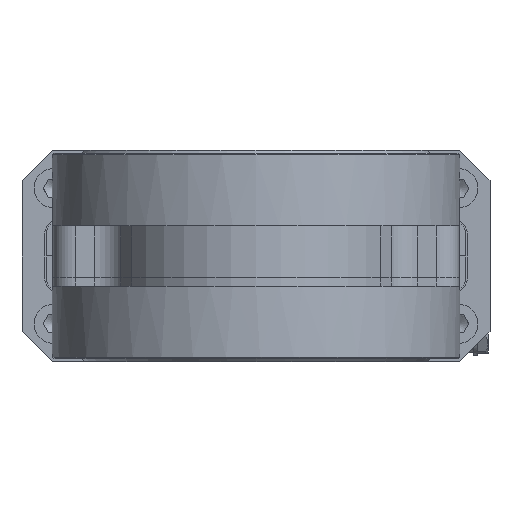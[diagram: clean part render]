
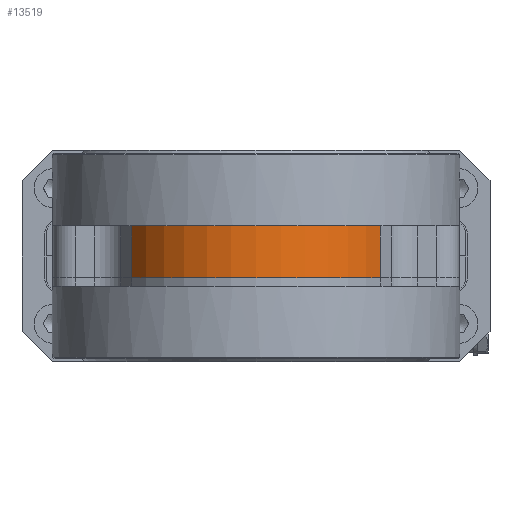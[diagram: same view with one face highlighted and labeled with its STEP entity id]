
A CAD part, front view. The second image highlights one B-rep face of the part: STEP entity #13519.
In plain terms, the highlighted cylindrical face has radius 47.5 mm (diameter 95 mm), a partial arc.
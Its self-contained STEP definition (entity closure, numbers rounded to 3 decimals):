
#6948=LINE('',#41558,#8580);
#6951=LINE('',#41564,#8583);
#8580=VECTOR('',#34241,1.);
#8583=VECTOR('',#34246,1.);
#12560=FACE_OUTER_BOUND('',#16269,.T.);
#13519=ADVANCED_FACE('',(#12560),#14801,.T.);
#14801=CYLINDRICAL_SURFACE('',#31411,47.5);
#16269=EDGE_LOOP('',(#18752,#18753,#18754,#18755));
#18752=ORIENTED_EDGE('',*,*,#27282,.T.);
#18753=ORIENTED_EDGE('',*,*,#27301,.F.);
#18754=ORIENTED_EDGE('',*,*,#27302,.F.);
#18755=ORIENTED_EDGE('',*,*,#27298,.T.);
#24838=VERTEX_POINT('',#41526);
#24839=VERTEX_POINT('',#41528);
#24853=VERTEX_POINT('',#41559);
#24855=VERTEX_POINT('',#41565);
#27282=EDGE_CURVE('BCT_REF_77940',#24839,#24838,#30230,.T.);
#27298=EDGE_CURVE('',#24853,#24839,#6948,.T.);
#27301=EDGE_CURVE('',#24855,#24838,#6951,.T.);
#27302=EDGE_CURVE('',#24853,#24855,#30238,.T.);
#30230=CIRCLE('',#31400,47.5);
#30238=CIRCLE('',#31410,47.5);
#31400=AXIS2_PLACEMENT_3D('',#41527,#34215,#34216);
#31410=AXIS2_PLACEMENT_3D('',#41566,#34247,#34248);
#31411=AXIS2_PLACEMENT_3D('',#41567,#34249,#34250);
#34215=DIRECTION('',(0.,-1.,0.));
#34216=DIRECTION('',(1.,0.,0.));
#34241=DIRECTION('',(0.,1.,0.));
#34246=DIRECTION('',(0.,1.,0.));
#34247=DIRECTION('',(0.,-1.,0.));
#34248=DIRECTION('',(1.,0.,0.));
#34249=DIRECTION('',(0.,1.,0.));
#34250=DIRECTION('',(0.,0.,1.));
#41526=CARTESIAN_POINT('',(41.136,0.,-23.75));
#41527=CARTESIAN_POINT('',(0.,0.,0.));
#41528=CARTESIAN_POINT('',(-41.136,0.,-23.75));
#41558=CARTESIAN_POINT('',(-41.136,-17.2,-23.75));
#41559=CARTESIAN_POINT('',(-41.136,-17.2,-23.75));
#41564=CARTESIAN_POINT('',(41.136,-17.2,-23.75));
#41565=CARTESIAN_POINT('',(41.136,-17.2,-23.75));
#41566=CARTESIAN_POINT('',(0.,-17.2,0.));
#41567=CARTESIAN_POINT('',(0.,-17.2,0.));
